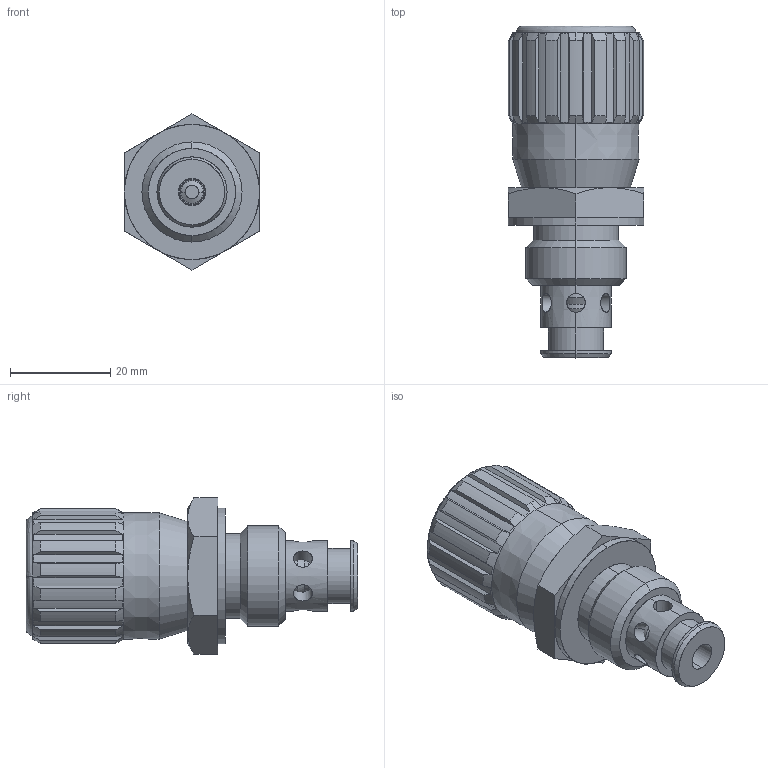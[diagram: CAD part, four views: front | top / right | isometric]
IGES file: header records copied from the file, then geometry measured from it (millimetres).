
Start section: SolidWorks IGES file using analytic representation for surfaces
Global section: file name: C:\Users\user\Desktop\Assieme 2267-2-manopola.IGS; native system: SolidWorks 2014; preprocessor: SolidWorks 2014; author: user; date: 140612.114305; units: millimetre
Bounding box: 27 x 66.3 x 31.18 mm (x, y, z)
Surface area: 15526.3 mm2 (no closed solid volume)
Topology: 0 solids, 0 shells, 436 faces, 5132 edges, 5130 vertices
Faces by surface type: bspline 227, revolution 209
